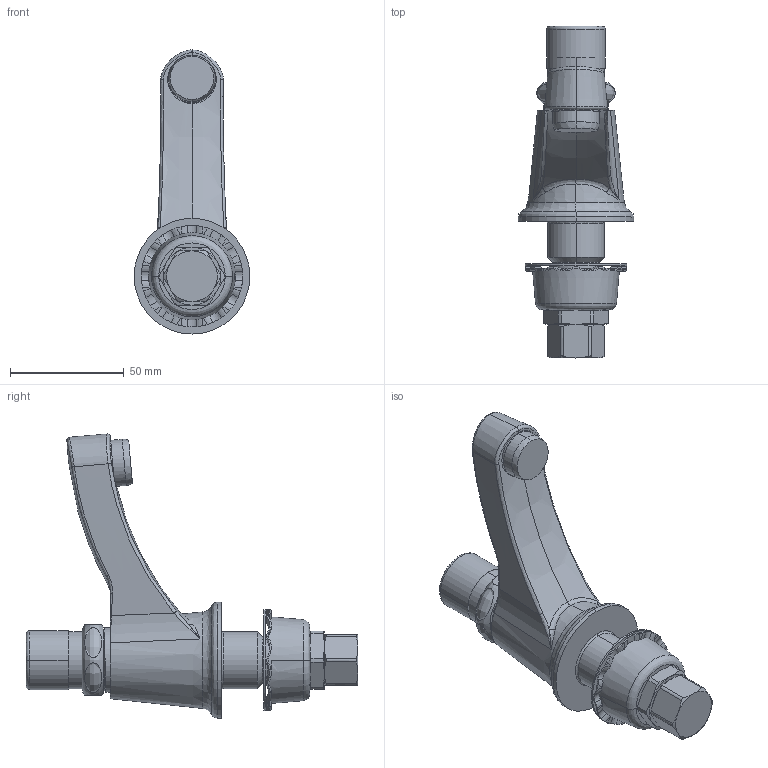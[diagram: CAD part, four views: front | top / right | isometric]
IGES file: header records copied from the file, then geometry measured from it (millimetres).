
Start section:  PTC IGES file: 333-e12pshab_REV062217.igs
Global section: file name: 333-e12pshab_REV062217.igs; native system: Creo Parametric by PTC Inc.; preprocessor: 2014500; author: dmisv; organization: Unknown; date: 20170622.151729; units: inch
Bounding box: 50.8 x 145.67 x 124.69 mm (x, y, z)
Surface area: 40602.4 mm2 (no closed solid volume)
Topology: 0 solids, 16 shells, 312 faces, 911 edges, 590 vertices
Faces by surface type: revolution 210, bspline 102
